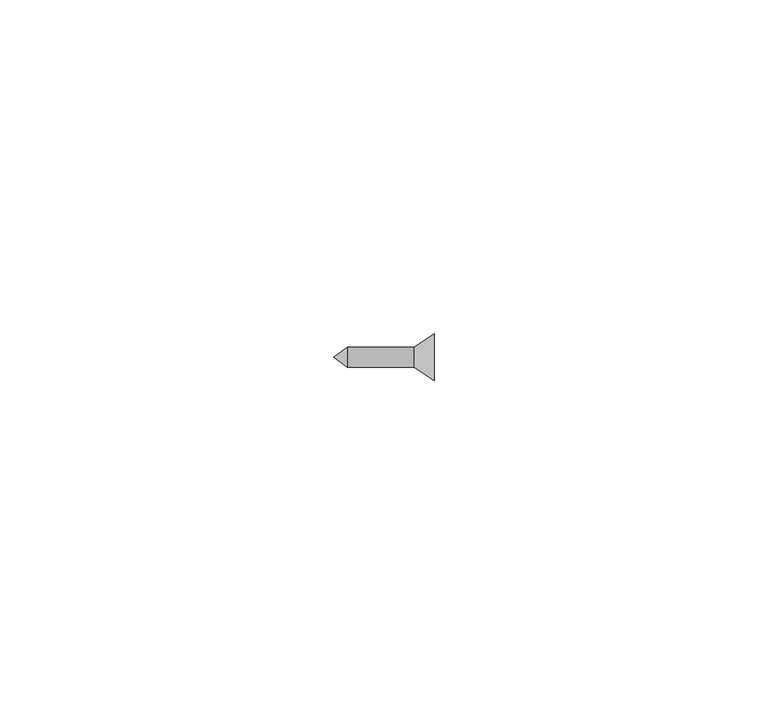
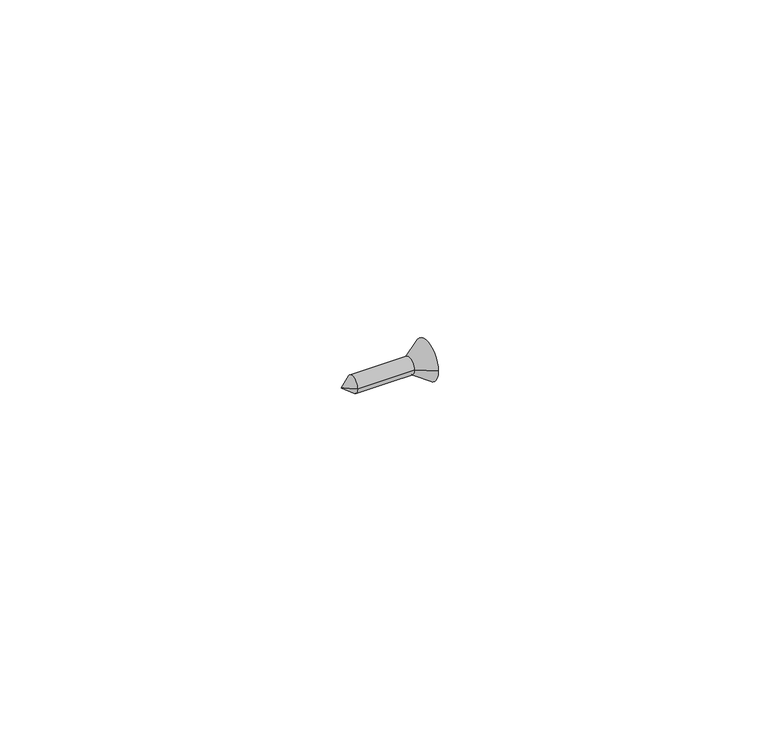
"""IFC4 building model written with IfcOpenShell, lengths in millimetres: furniture geometry, Parafuso de Madeira 12mm x 3mm : Parafuso de Madeira 12mm x 3mm."""

from ifc_helpers import new_model, si_unit, frame, origin, place, context, project, spatial, polyline, circle_curve, source, transform, mapped, element, save
from ifc_brep_helpers import plane_surface, cylinder_surface, revolved_surface, advanced_brep


def furniture_202a0ecc(model_context):
    return source(origin(), model_context, "Body", "AdvancedBrep", [
        advanced_brep(
        [(0.0, 0.0, 0.0), (2.0, 1.5, 0.0), (2.0, -1.5, 0.0), (15.0, 3.5, 0.0), (15.0, 1.3447411, 0.0), (15.0, 1.3447411, -0.55), (15.0, 0.543501, -0.55), (15.0, 0.5416924, -1.3512388), (15.0, -0.5583048, -1.3487558), (15.0, -0.5565018, -0.55), (15.0, -1.3552589, -0.55), (15.0, -1.3552589, 0.0), (15.0, -3.5, 0.0), (15.0, -1.3552589, 0.55), (15.0, -0.5540187, 0.55), (15.0, -0.5522101, 1.3512388), (15.0, 0.5477871, 1.3487558), (15.0, 0.5459841, 0.55), (15.0, 1.3447411, 0.55), (12.0, -1.5, 0.0), (12.0, 1.5, 0.0), (13.0, 0.5459841, 0.55), (13.0, 0.5477871, 1.3487558), (13.0, -0.5522101, 1.3512388), (13.0, -0.5540187, 0.55), (13.0, -1.3552589, 0.55), (13.0, -1.3552589, -0.55), (13.0, -0.5565018, -0.55), (13.0, -0.5583048, -1.3487558), (13.0, 0.5416924, -1.3512388), (13.0, 0.543501, -0.55), (13.0, 1.3447411, -0.55), (13.0, 1.3447411, 0.55)],
        [
            (0, 1),
            (1, 2, circle_curve(frame((2.0, 0.0, 0.0), z_axis=(-1.0, 0.0, 0.0), x_axis=(0.0, -1.0, 0.0)), 1.5)),
            (2, 0),
            (2, 1, circle_curve(frame((2.0, 0.0, 0.0), z_axis=(-1.0, 0.0, 0.0), x_axis=(0.0, -1.0, 0.0)), 1.5)),
            (3, 4),
            (4, 5),
            (5, 6),
            (6, 7),
            (7, 8),
            (8, 9),
            (9, 10),
            (10, 11),
            (11, 12),
            (12, 3, circle_curve(frame((15.0, 0.0, 0.0), z_axis=(1.0, 0.0, 0.0), x_axis=(0.0, -1.0, 0.0)), 3.5)),
            (11, 13),
            (13, 14),
            (14, 15),
            (15, 16),
            (16, 17),
            (17, 18),
            (18, 4),
            (3, 12, circle_curve(frame((15.0, 0.0, 0.0), z_axis=(1.0, 0.0, 0.0), x_axis=(0.0, -1.0, 0.0)), 3.5)),
            (12, 19),
            (19, 20, circle_curve(frame((12.0, 0.0, 0.0), z_axis=(1.0, 0.0, 0.0), x_axis=(0.0, -1.0, 0.0)), 1.5)),
            (20, 3),
            (20, 19, circle_curve(frame((12.0, 0.0, 0.0), z_axis=(1.0, 0.0, 0.0), x_axis=(0.0, -1.0, 0.0)), 1.5)),
            (21, 22),
            (22, 23),
            (23, 24),
            (24, 25),
            (25, 26),
            (26, 27),
            (27, 28),
            (28, 29),
            (29, 30),
            (30, 31),
            (31, 32),
            (32, 21),
            (21, 17),
            (16, 22),
            (15, 23),
            (14, 24),
            (13, 25),
            (10, 26),
            (9, 27),
            (8, 28),
            (7, 29),
            (6, 30),
            (5, 31),
            (18, 32),
            (1, 20),
            (19, 2),
        ],
        [
            revolved_surface(polyline([(2.0, -1.5, 0.0), (0.0, 0.0, 0.0)]), (0.0, 0.0, 0.0), (-1.0, 0.0, 0.0)),
            plane_surface(frame((15.0, 0.0, 0.0), z_axis=(1.0, 0.0, 0.0), x_axis=(0.0, -1.0, 0.0))),
            revolved_surface(polyline([(15.0, -3.5, 0.0), (12.0, -1.5, 0.0)]), (0.0, 0.0, 0.0), (-1.0, 0.0, 0.0)),
            plane_surface(frame((13.0, 0.5410152, -1.6512373), z_axis=(1.0, 0.0, 0.0), x_axis=(0.0, 0.002257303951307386, 0.9999974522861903))),
            plane_surface(frame((13.0, 0.5459841, 0.55), z_axis=(0.0, -0.9999974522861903, 0.002257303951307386), x_axis=(1.0, 0.0, 0.0))),
            plane_surface(frame((13.0, 0.5477871, 1.3487558), z_axis=(0.0, -0.0022573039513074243, -0.9999974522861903), x_axis=(1.0, 0.0, 0.0))),
            plane_surface(frame((13.0, -0.5522101, 1.3512388), z_axis=(0.0, 0.9999974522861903, -0.002257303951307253), x_axis=(1.0, 0.0, 0.0))),
            plane_surface(frame((13.0, -0.5540187, 0.55), z_axis=(0.0, 0.0, -1.0), x_axis=(1.0, 0.0, 0.0))),
            plane_surface(frame((13.0, -1.3552589, 0.55), z_axis=(0.0, 1.0, 0.0), x_axis=(1.0, 0.0, 0.0))),
            plane_surface(frame((13.0, -1.3552589, -0.55), z_axis=(0.0, 0.0, 1.0), x_axis=(1.0, 0.0, 0.0))),
            plane_surface(frame((13.0, -0.5565018, -0.55), z_axis=(0.0, 0.9999974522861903, -0.002257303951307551), x_axis=(1.0, 0.0, 0.0))),
            plane_surface(frame((13.0, -0.5583048, -1.3487558), z_axis=(0.0, 0.0022573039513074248, 0.9999974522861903), x_axis=(1.0, 0.0, 0.0))),
            plane_surface(frame((13.0, 0.5416924, -1.3512388), z_axis=(0.0, -0.9999974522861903, 0.0022573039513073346), x_axis=(1.0, 0.0, 0.0))),
            plane_surface(frame((13.0, 0.543501, -0.55), z_axis=(0.0, 0.0, 1.0), x_axis=(1.0, 0.0, 0.0))),
            plane_surface(frame((13.0, 1.3447411, -0.55), z_axis=(0.0, -1.0, 0.0), x_axis=(1.0, 0.0, 0.0))),
            plane_surface(frame((13.0, 1.3447411, 0.55), z_axis=(0.0, 0.0, -1.0), x_axis=(1.0, 0.0, 0.0))),
            cylinder_surface(frame((0.0, 0.0, 0.0), z_axis=(-1.0, 0.0, 0.0), x_axis=(0.0, -1.0, 0.0)), 1.5),
        ],
        [
            (0, [[1, 2, 3]]),
            (0, [[4, -1, -3]]),
            (1, [[5, 6, 7, 8, 9, 10, 11, 12, 13, 14]]),
            (1, [[-13, 15, 16, 17, 18, 19, 20, 21, -5, 22]]),
            (2, [[23, 24, 25, -14]]),
            (2, [[-25, 26, -23, -22]]),
            (3, [[27, 28, 29, 30, 31, 32, 33, 34, 35, 36, 37, 38]]),
            (4, [[39, -19, 40, -27]]),
            (5, [[-40, -18, 41, -28]]),
            (6, [[-41, -17, 42, -29]]),
            (7, [[-42, -16, 43, -30]]),
            (8, [[-43, -15, -12, 44, -31]]),
            (9, [[-44, -11, 45, -32]]),
            (10, [[-45, -10, 46, -33]]),
            (11, [[-46, -9, 47, -34]]),
            (12, [[-47, -8, 48, -35]]),
            (13, [[-48, -7, 49, -36]]),
            (14, [[-49, -6, -21, 50, -37]]),
            (15, [[-50, -20, -39, -38]]),
            (16, [[51, -24, 52, -2]]),
            (16, [[-52, -26, -51, -4]]),
        ],
    ),
    ])


if __name__ == "__main__":
    model = new_model("IFC4")
    model_context = context("Model", 3, world=origin())
    ifc_project = project(units=[si_unit("LENGTHUNIT", "METRE", prefix="MILLI")], contexts=[model_context])
    site = spatial("IfcSite", under=ifc_project)
    building = spatial("IfcBuilding", under=site)
    placement = place(None, origin())
    furniture_shape = furniture_202a0ecc(model_context)
    element("IfcFurniture", 1, ObjectType="Parafuso de Madeira 12mm x 3mm : Parafuso de Madeira 12mm x 3mm", at=placement, inside=building, context=model_context, shape_type="MappedRepresentation", body=[
        mapped(furniture_shape, transform((0.0, 0.0, 0.0), x_axis=(1.0, 0.0, 0.0), y_axis=(0.0, 1.0, 0.0), z_axis=(0.0, 0.0, 1.0))),
    ])
    save(model, "model.ifc")
